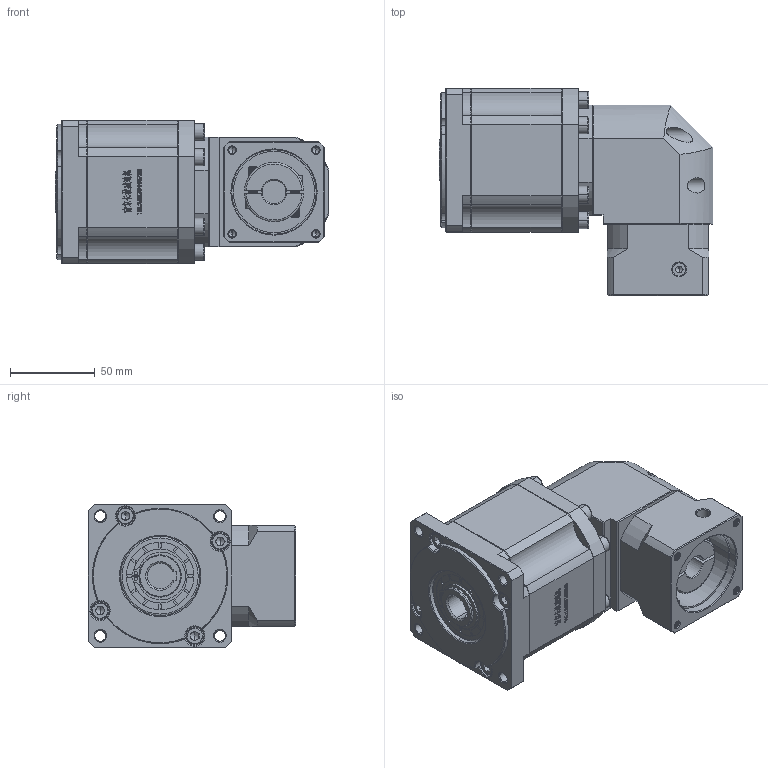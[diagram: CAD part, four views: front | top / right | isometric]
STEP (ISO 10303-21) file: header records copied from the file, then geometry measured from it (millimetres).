
FILE_DESCRIPTION (( 'STEP AP214' ), '1' );
FILE_NAME ('ZBR90-K15-L3-14-50-70-M5.step', '2022-05-07T15:26:17', ( '' ), ( 'Microsoft' ), 'SwSTEP 2.0', 'SolidWorks 2016', '' );
FILE_SCHEMA (( 'AUTOMOTIVE_DESIGN' ));
Length unit declared in the file: millimetre
Products named in the file (1): ZBR90-K15-L3-14-50-70-M5
Bounding box: 162 x 122.7 x 85 mm (x, y, z)
Volume: 903198.5 mm3; surface area: 103992.2 mm2
Topology: 5 solids, 5 shells, 2990 faces, 8013 edges, 5166 vertices
Faces by surface type: plane 1591, bspline 610, cylinder 418, cone 363, torus 8
Entity records: 157482 total; most frequent: CARTESIAN_POINT 54338, ORIENTED_EDGE 15938, DIRECTION 12278, EDGE_CURVE 7969, VECTOR 5306, LINE 5306, VERTEX_POINT 5166, AXIS2_PLACEMENT_3D 3486
